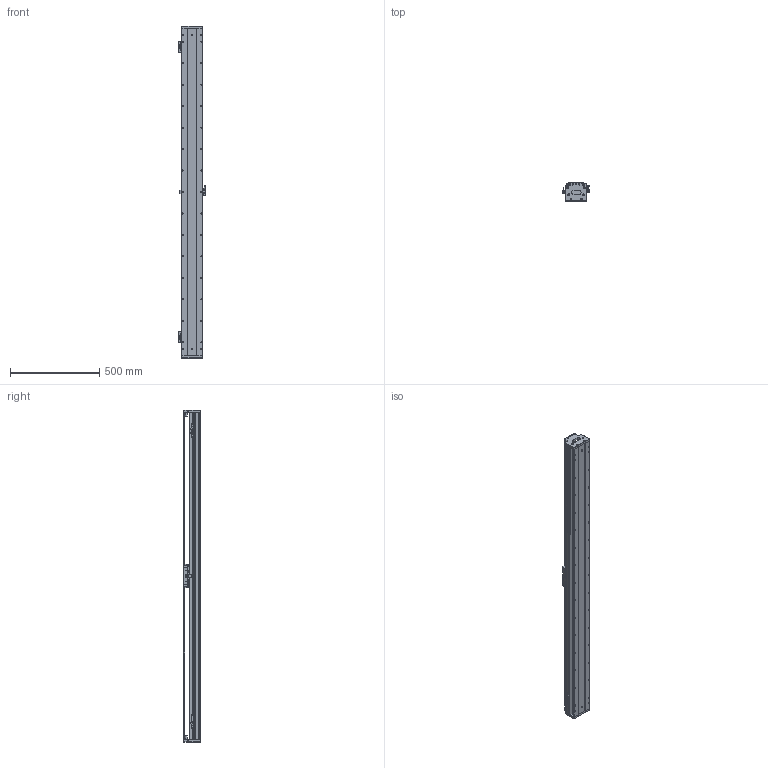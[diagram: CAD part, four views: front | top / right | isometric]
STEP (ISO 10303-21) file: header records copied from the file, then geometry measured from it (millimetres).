
FILE_DESCRIPTION (( 'STEP AP203' ), '1' );
FILE_NAME ('DKW119-C15-W060(T1620-L005-0.2).STEP', '2021-09-02T03:09:40', ( '微软用户' ), ( '微软中国' ), 'SwSTEP 2.0', 'SolidWorks 2018', '' );
FILE_SCHEMA (( 'CONFIG_CONTROL_DESIGN' ));
Length unit declared in the file: millimetre
Products named in the file (27): Ru2; 12160-0000-004-00  DKW120詩湍揤輸; C15-W060; 12018-0001-001-00 菁釱; RUS嫖掑郪璃; DKW119 单轴模组-拉钢带组件; CKMA01-W060-TRLxxx; MSB15-DG-U; DKW119-C15-W060(T1620-L005-0.2); pm-y65; DKW-HXJ-JY-00 遣喳砎蝶; 12018-0001-003-00 賑雄怢啣; 10980-0001-003-00 嫖萇羲壽嘐隅釱; 11062-0001-004-00 DKW119傷啣; MSB15TS2FC+U92.7-16.35_16.35N_(0_45.85_0_01G-M4); 嫖萇羲壽蚾饜极; 06652-0001-004-00 DKW120嶺輸菜輸; DKW-HYB-JY-A-00 賑輸揤啣A; 嫖萇羲壽蚾饜极A; 12018-0001-002-00 詩湍; DKW119-RU-DTJ-00 RU2黍杅芛盓殤; DKW-SG-GYP-H-00 嫖萇覜茼え; 砎蝶猾沭; 葩璃 萇儂堤盄 ^C15-W060; RUS嫖掑喜; 12160-0000-003-00 DKW120詩湍嶺輸; CKM015-W060-C1-TP-0.2+CKM01-W060-TRL240+黍芛
Assembly tree (44 placements, depth 3):
  DKW119-C15-W060(T1620-L005-0.2)
    12018-0001-001-00 菁釱
    MSB15-DG-U  x2
    C15-W060
      12018-0001-003-00 賑雄怢啣
      MSB15TS2FC+U92.7-16.35_16.35N_(0_45.85_0_01G-M4)  x4
      DKW-HYB-JY-A-00 賑輸揤啣A  x2
      DKW119-RU-DTJ-00 RU2黍杅芛盓殤
      葩璃 萇儂堤盄 ^C15-W060
      CKM015-W060-C1-TP-0.2+CKM01-W060-TRL240+黍芛
    CKMA01-W060-TRLxxx
    DKW119 单轴模组-拉钢带组件
      DKW-HXJ-JY-00 遣喳砎蝶  x4
      11062-0001-004-00 DKW119傷啣  x2
      06652-0001-004-00 DKW120嶺輸菜輸  x4
      12018-0001-002-00 詩湍
      砎蝶猾沭  x2
      12160-0000-003-00 DKW120詩湍嶺輸  x2
      12160-0000-004-00  DKW120詩湍揤輸  x2
    嫖萇羲壽蚾饜极
      pm-y65
      10980-0001-003-00 嫖萇羲壽嘐隅釱
    嫖萇羲壽蚾饜极A
      pm-y65  x2
      10980-0001-003-00 嫖萇羲壽嘐隅釱
    DKW-SG-GYP-H-00 嫖萇覜茼え
    RUS嫖掑郪璃
      RUS嫖掑喜
      Ru2
Bounding box: 154.3 x 99 x 1856 mm (x, y, z)
Volume: 7792201.3 mm3; surface area: 2592940.7 mm2
Topology: 50 solids, 99 shells, 4486 faces, 11957 edges, 7641 vertices
Faces by surface type: plane 2322, cylinder 1461, cone 436, bspline 267
Entity records: 117426 total; most frequent: CARTESIAN_POINT 40204, ORIENTED_EDGE 15427, DIRECTION 14748, EDGE_CURVE 7754, VERTEX_POINT 5084, AXIS2_PLACEMENT_3D 5005, VECTOR 4738, LINE 4738
